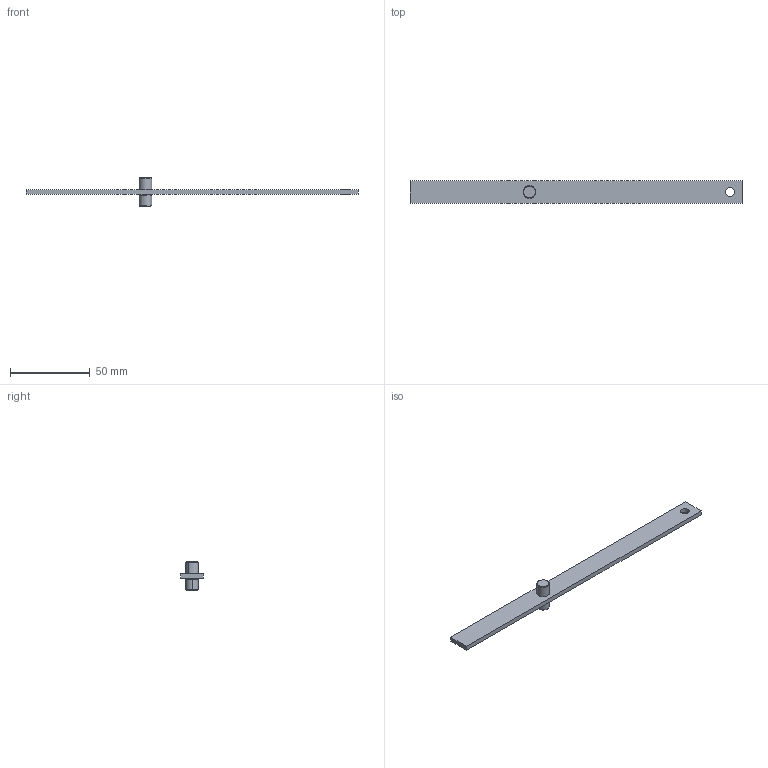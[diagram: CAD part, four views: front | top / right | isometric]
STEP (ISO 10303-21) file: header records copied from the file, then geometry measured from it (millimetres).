
FILE_DESCRIPTION (( 'STEP AP214' ), '1' );
FILE_NAME ('P18-210.STEP', '2016-08-18T09:43:30', ( 'RST-Dolba' ), ( '' ), 'SwSTEP 2.0', 'SolidWorks 2015', '' );
FILE_SCHEMA (( 'AUTOMOTIVE_DESIGN' ));
Length unit declared in the file: millimetre
Products named in the file (4): 1C.PDB.02.02.00_A; 1C.PD.B.Z.X.Y.01_P18-210; 1C.PDB.02.01.00_A; P18-210
Assembly tree (3 placements, depth 2):
  P18-210
    1C.PD.B.Z.X.Y.01_P18-210
    1C.PDB.02.01.00_A
    1C.PDB.02.02.00_A
Bounding box: 208.5 x 14 x 18.1 mm (x, y, z)
Volume: 9435.5 mm3; surface area: 7963.5 mm2
Topology: 3 solids, 3 shells, 40 faces, 84 edges, 51 vertices
Faces by surface type: cylinder 16, plane 12, cone 12
Entity records: 1226 total; most frequent: DIRECTION 216, CARTESIAN_POINT 179, ORIENTED_EDGE 164, AXIS2_PLACEMENT_3D 88, EDGE_CURVE 82, VERTEX_POINT 51, EDGE_LOOP 49, CIRCLE 42
